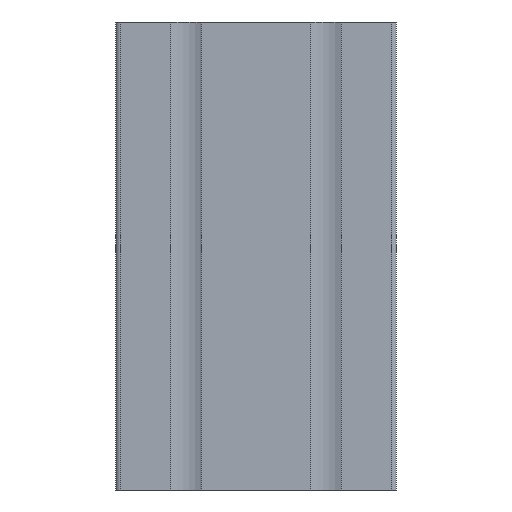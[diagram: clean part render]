
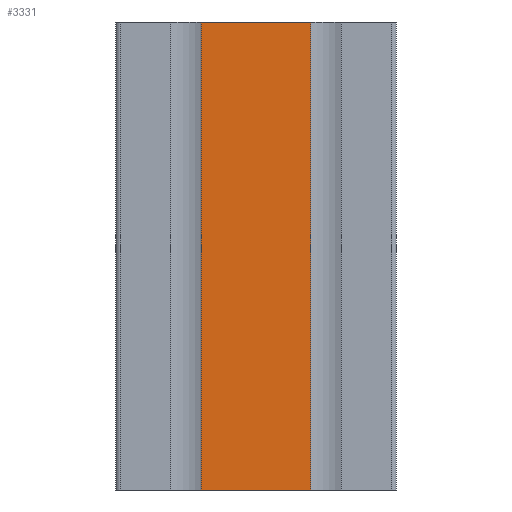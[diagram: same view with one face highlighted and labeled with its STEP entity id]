
A CAD part, front view. The second image highlights one B-rep face of the part: STEP entity #3331.
In plain terms, the highlighted planar face has unit normal (0, -1, 0).
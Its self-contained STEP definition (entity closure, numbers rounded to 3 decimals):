
#383 = CARTESIAN_POINT ( 'NONE',  ( -11.75, -30., -100. ) ) ;
#385 = VERTEX_POINT ( 'NONE', #4956 ) ;
#468 = VERTEX_POINT ( 'NONE', #4342 ) ;
#800 = VECTOR ( 'NONE', #3502, 1000. ) ;
#812 = VERTEX_POINT ( 'NONE', #1513 ) ;
#1368 = EDGE_CURVE ( 'NONE', #812, #4424, #2656, .T. ) ;
#1513 = CARTESIAN_POINT ( 'NONE',  ( -11.75, -30., -100. ) ) ;
#1519 = CARTESIAN_POINT ( 'NONE',  ( 0., -30., -100. ) ) ;
#1559 = CARTESIAN_POINT ( 'NONE',  ( 11.75, -30., -100. ) ) ;
#2070 = FACE_OUTER_BOUND ( 'NONE', #4690, .T. ) ;
#2139 = ORIENTED_EDGE ( 'NONE', *, *, #5032, .T. ) ;
#2656 = LINE ( 'NONE', #4244, #3834 ) ;
#2752 = LINE ( 'NONE', #1559, #4329 ) ;
#3123 = ORIENTED_EDGE ( 'NONE', *, *, #1368, .T. ) ;
#3331 = ADVANCED_FACE ( 'NONE', ( #2070 ), #6463, .T. ) ;
#3502 = DIRECTION ( 'NONE',  ( 0., 0., 1. ) ) ;
#3701 = ORIENTED_EDGE ( 'NONE', *, *, #5352, .F. ) ;
#3722 = DIRECTION ( 'NONE',  ( 0., -1., 0. ) ) ;
#3834 = VECTOR ( 'NONE', #6595, 1000. ) ;
#3986 = AXIS2_PLACEMENT_3D ( 'NONE', #1519, #3722, #5917 ) ;
#4156 = CARTESIAN_POINT ( 'NONE',  ( 11.75, -30., -100. ) ) ;
#4244 = CARTESIAN_POINT ( 'NONE',  ( -11.75, -30., -100. ) ) ;
#4329 = VECTOR ( 'NONE', #4336, 1000. ) ;
#4336 = DIRECTION ( 'NONE',  ( 0., 0., 1. ) ) ;
#4342 = CARTESIAN_POINT ( 'NONE',  ( 11.75, -30., 0. ) ) ;
#4424 = VERTEX_POINT ( 'NONE', #4156 ) ;
#4657 = CARTESIAN_POINT ( 'NONE',  ( 0., -30., 0. ) ) ;
#4690 = EDGE_LOOP ( 'NONE', ( #6688, #3701, #3123, #2139 ) ) ;
#4748 = LINE ( 'NONE', #383, #800 ) ;
#4847 = EDGE_CURVE ( 'NONE', #385, #468, #6431, .T. ) ;
#4956 = CARTESIAN_POINT ( 'NONE',  ( -11.75, -30., 0. ) ) ;
#5032 = EDGE_CURVE ( 'NONE', #4424, #468, #2752, .T. ) ;
#5202 = DIRECTION ( 'NONE',  ( 1., 0., 0. ) ) ;
#5352 = EDGE_CURVE ( 'NONE', #812, #385, #4748, .T. ) ;
#5917 = DIRECTION ( 'NONE',  ( 0., 0., -1. ) ) ;
#6431 = LINE ( 'NONE', #4657, #6829 ) ;
#6463 = PLANE ( 'NONE',  #3986 ) ;
#6595 = DIRECTION ( 'NONE',  ( 1., 0., 0. ) ) ;
#6688 = ORIENTED_EDGE ( 'NONE', *, *, #4847, .F. ) ;
#6829 = VECTOR ( 'NONE', #5202, 1000. ) ;
